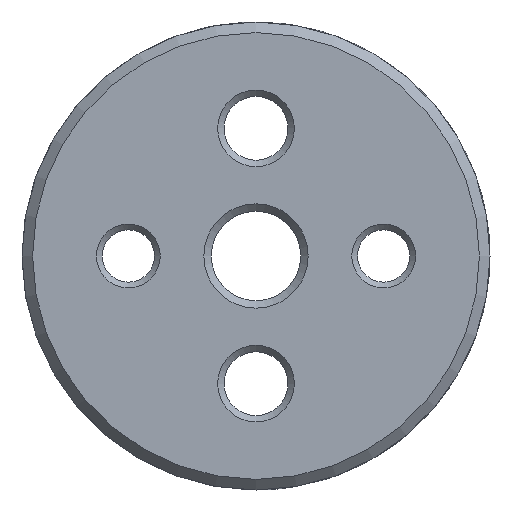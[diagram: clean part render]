
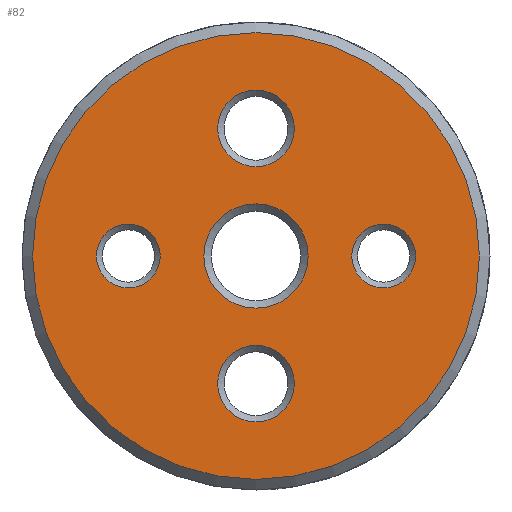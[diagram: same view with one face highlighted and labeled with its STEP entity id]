
A CAD part, front view. The second image highlights one B-rep face of the part: STEP entity #82.
In plain terms, the highlighted planar face has unit normal (0, -1, 0).
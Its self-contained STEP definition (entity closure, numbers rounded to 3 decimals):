
#82 = ADVANCED_FACE( '', ( #123, #124, #125, #126, #127, #128 ), #129, .F. );
#123 = FACE_BOUND( '', #211, .T. );
#124 = FACE_BOUND( '', #212, .T. );
#125 = FACE_BOUND( '', #213, .T. );
#126 = FACE_BOUND( '', #214, .T. );
#127 = FACE_BOUND( '', #215, .T. );
#128 = FACE_OUTER_BOUND( '', #216, .T. );
#129 = PLANE( '', #217 );
#211 = EDGE_LOOP( '', ( #341 ) );
#212 = EDGE_LOOP( '', ( #342 ) );
#213 = EDGE_LOOP( '', ( #343 ) );
#214 = EDGE_LOOP( '', ( #344 ) );
#215 = EDGE_LOOP( '', ( #345 ) );
#216 = EDGE_LOOP( '', ( #346 ) );
#217 = AXIS2_PLACEMENT_3D( '', #347, #348, #349 );
#341 = ORIENTED_EDGE( '', *, *, #506, .F. );
#342 = ORIENTED_EDGE( '', *, *, #507, .F. );
#343 = ORIENTED_EDGE( '', *, *, #508, .F. );
#344 = ORIENTED_EDGE( '', *, *, #509, .F. );
#345 = ORIENTED_EDGE( '', *, *, #510, .F. );
#346 = ORIENTED_EDGE( '', *, *, #505, .T. );
#347 = CARTESIAN_POINT( '', ( 10.5, 0., 0. ) );
#348 = DIRECTION( '', ( 0., 1., 0. ) );
#349 = DIRECTION( '', ( 0., 0., 1. ) );
#505 = EDGE_CURVE( '', #579, #579, #580, .T. );
#506 = EDGE_CURVE( '', #581, #581, #582, .T. );
#507 = EDGE_CURVE( '', #583, #583, #584, .F. );
#508 = EDGE_CURVE( '', #585, #585, #586, .T. );
#509 = EDGE_CURVE( '', #587, #587, #588, .T. );
#510 = EDGE_CURVE( '', #589, #589, #590, .T. );
#579 = VERTEX_POINT( '', #775 );
#580 = CIRCLE( '', #776, 10.5 );
#581 = VERTEX_POINT( '', #777 );
#582 = CIRCLE( '', #778, 2.45 );
#583 = VERTEX_POINT( '', #779 );
#584 = CIRCLE( '', #780, 1.5 );
#585 = VERTEX_POINT( '', #781 );
#586 = CIRCLE( '', #782, 1.8 );
#587 = VERTEX_POINT( '', #783 );
#588 = CIRCLE( '', #784, 1.8 );
#589 = VERTEX_POINT( '', #785 );
#590 = CIRCLE( '', #786, 1.5 );
#775 = CARTESIAN_POINT( '', ( 0., 0., -10.5 ) );
#776 = AXIS2_PLACEMENT_3D( '', #880, #881, #882 );
#777 = CARTESIAN_POINT( '', ( 0., 0., -2.45 ) );
#778 = AXIS2_PLACEMENT_3D( '', #883, #884, #885 );
#779 = CARTESIAN_POINT( '', ( 6., 0., 1.5 ) );
#780 = AXIS2_PLACEMENT_3D( '', #886, #887, #888 );
#781 = CARTESIAN_POINT( '', ( 0., 0., 4.2 ) );
#782 = AXIS2_PLACEMENT_3D( '', #889, #890, #891 );
#783 = CARTESIAN_POINT( '', ( 0., 0., -7.8 ) );
#784 = AXIS2_PLACEMENT_3D( '', #892, #893, #894 );
#785 = CARTESIAN_POINT( '', ( -6., 0., -1.5 ) );
#786 = AXIS2_PLACEMENT_3D( '', #895, #896, #897 );
#880 = CARTESIAN_POINT( '', ( 0., 0., 0. ) );
#881 = DIRECTION( '', ( 0., -1., 0. ) );
#882 = DIRECTION( '', ( 0., 0., -1. ) );
#883 = CARTESIAN_POINT( '', ( 0., 0., 0. ) );
#884 = DIRECTION( '', ( 0., -1., 0. ) );
#885 = DIRECTION( '', ( 0., 0., -1. ) );
#886 = CARTESIAN_POINT( '', ( 6., 0., 0. ) );
#887 = DIRECTION( '', ( 0., 1., 0. ) );
#888 = DIRECTION( '', ( 0., 0., 1. ) );
#889 = CARTESIAN_POINT( '', ( 0., 0., 6. ) );
#890 = DIRECTION( '', ( 0., -1., 0. ) );
#891 = DIRECTION( '', ( 0., 0., -1. ) );
#892 = CARTESIAN_POINT( '', ( 0., 0., -6. ) );
#893 = DIRECTION( '', ( 0., -1., 0. ) );
#894 = DIRECTION( '', ( 0., 0., -1. ) );
#895 = CARTESIAN_POINT( '', ( -6., 0., 0. ) );
#896 = DIRECTION( '', ( 0., -1., 0. ) );
#897 = DIRECTION( '', ( 0., 0., -1. ) );
